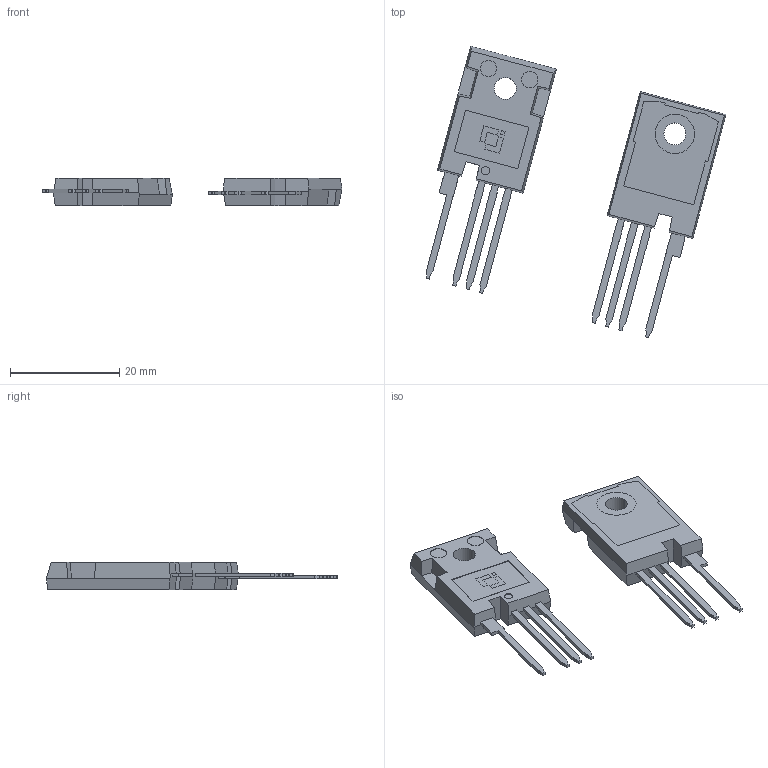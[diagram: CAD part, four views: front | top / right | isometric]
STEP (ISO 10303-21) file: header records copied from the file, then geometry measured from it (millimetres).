
FILE_DESCRIPTION(('STEP AP214'),'1');
FILE_NAME('TO-247-4L-LOGO.stp','2026-07-29T00:49:09',(' '),(' '),'Spatial InterOp 3D',' ',' ');
FILE_SCHEMA(('AUTOMOTIVE_DESIGN { 1 0 10303 214 1 1 1 1 }'));
Length unit declared in the file: metre
Products named in the file (4): TO-247-3L.stp.STEP; TO-247-3L_logo_A1_海德-FreeParts.stp.STEP; TO-247-3L.STEP; TO-247-4L-LOGO
Assembly tree (4 placements, depth 4):
  TO-247-4L-LOGO
    TO-247-3L.STEP
      TO-247-3L.stp.STEP
        TO-247-3L_logo_A1_海德-FreeParts.stp.STEP  x2
Bounding box: 54.8 x 53.28 x 5 mm (x, y, z)
Volume: 3417.4 mm3; surface area: 4172.6 mm2
Topology: 12 solids, 12 shells, 344 faces, 910 edges, 608 vertices
Faces by surface type: plane 320, cylinder 24
Entity records: 5437 total; most frequent: CARTESIAN_POINT 938, ORIENTED_EDGE 910, DIRECTION 853, EDGE_CURVE 455, LINE 415, VECTOR 415, VERTEX_POINT 304, AXIS2_PLACEMENT_3D 219
